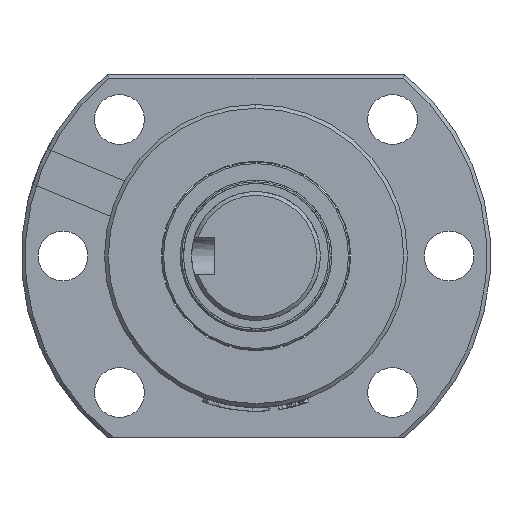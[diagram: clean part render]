
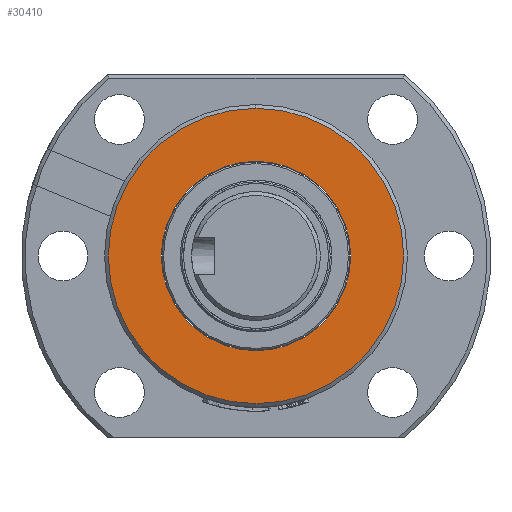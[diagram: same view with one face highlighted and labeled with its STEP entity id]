
A CAD part, left-side view. The second image highlights one B-rep face of the part: STEP entity #30410.
In plain terms, the highlighted planar face has unit normal (-1, 0, 0) as drawn and (1, 0, 0) by its records, which use the part's own axes.
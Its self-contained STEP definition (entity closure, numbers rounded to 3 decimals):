
#1417 = AXIS2_PLACEMENT_3D ( 'NONE', #6382, #26275, #31439 ) ;
#5628 = EDGE_CURVE ( 'NONE', #10887, #31995, #21395, .T. ) ;
#6182 = CARTESIAN_POINT ( 'NONE',  ( 80., 0., 0. ) ) ;
#6382 = CARTESIAN_POINT ( 'NONE',  ( 80., 0., 0. ) ) ;
#7075 = FACE_BOUND ( 'NONE', #16435, .T. ) ;
#8506 = AXIS2_PLACEMENT_3D ( 'NONE', #6182, #20545, #28831 ) ;
#9139 = CARTESIAN_POINT ( 'NONE',  ( 80., 0., -19.5 ) ) ;
#10218 = AXIS2_PLACEMENT_3D ( 'NONE', #18697, #29936, #34833 ) ;
#10530 = DIRECTION ( 'NONE',  ( 0., 0., 1. ) ) ;
#10887 = VERTEX_POINT ( 'NONE', #30598 ) ;
#12024 = CIRCLE ( 'NONE', #8506, 12.5 ) ;
#12937 = EDGE_CURVE ( 'NONE', #31567, #33873, #12024, .T. ) ;
#13648 = CARTESIAN_POINT ( 'NONE',  ( 80., 0., -20. ) ) ;
#14361 = EDGE_LOOP ( 'NONE', ( #23452, #35857 ) ) ;
#16006 = EDGE_CURVE ( 'NONE', #31995, #10887, #27095, .T. ) ;
#16435 = EDGE_LOOP ( 'NONE', ( #31072, #26438 ) ) ;
#16580 = DIRECTION ( 'NONE',  ( 1., 0., 0. ) ) ;
#18697 = CARTESIAN_POINT ( 'NONE',  ( 80., 0., 0. ) ) ;
#20296 = AXIS2_PLACEMENT_3D ( 'NONE', #13648, #24696, #10530 ) ;
#20545 = DIRECTION ( 'NONE',  ( -1., 0., 0. ) ) ;
#20819 = CIRCLE ( 'NONE', #1417, 12.5 ) ;
#21395 = CIRCLE ( 'NONE', #10218, 19.5 ) ;
#23452 = ORIENTED_EDGE ( 'NONE', *, *, #5628, .T. ) ;
#23838 = FACE_OUTER_BOUND ( 'NONE', #14361, .T. ) ;
#24696 = DIRECTION ( 'NONE',  ( -1., 0., 0. ) ) ;
#24871 = DIRECTION ( 'NONE',  ( 0., 0., 1. ) ) ;
#25850 = EDGE_CURVE ( 'NONE', #33873, #31567, #20819, .T. ) ;
#26275 = DIRECTION ( 'NONE',  ( -1., 0., 0. ) ) ;
#26438 = ORIENTED_EDGE ( 'NONE', *, *, #12937, .T. ) ;
#26551 = CARTESIAN_POINT ( 'NONE',  ( 80., 0., 12.5 ) ) ;
#27095 = CIRCLE ( 'NONE', #28265, 19.5 ) ;
#28265 = AXIS2_PLACEMENT_3D ( 'NONE', #32476, #16580, #24871 ) ;
#28831 = DIRECTION ( 'NONE',  ( 0., 0., 1. ) ) ;
#29936 = DIRECTION ( 'NONE',  ( 1., 0., 0. ) ) ;
#30410 = ADVANCED_FACE ( 'NONE', ( #7075, #23838 ), #36281, .F. ) ;
#30598 = CARTESIAN_POINT ( 'NONE',  ( 80., 0., 19.5 ) ) ;
#31072 = ORIENTED_EDGE ( 'NONE', *, *, #25850, .T. ) ;
#31439 = DIRECTION ( 'NONE',  ( 0., 0., 1. ) ) ;
#31567 = VERTEX_POINT ( 'NONE', #31896 ) ;
#31896 = CARTESIAN_POINT ( 'NONE',  ( 80., 0., -12.5 ) ) ;
#31995 = VERTEX_POINT ( 'NONE', #9139 ) ;
#32476 = CARTESIAN_POINT ( 'NONE',  ( 80., 0., 0. ) ) ;
#33873 = VERTEX_POINT ( 'NONE', #26551 ) ;
#34833 = DIRECTION ( 'NONE',  ( 0., 0., 1. ) ) ;
#35857 = ORIENTED_EDGE ( 'NONE', *, *, #16006, .T. ) ;
#36281 = PLANE ( 'NONE',  #20296 ) ;
